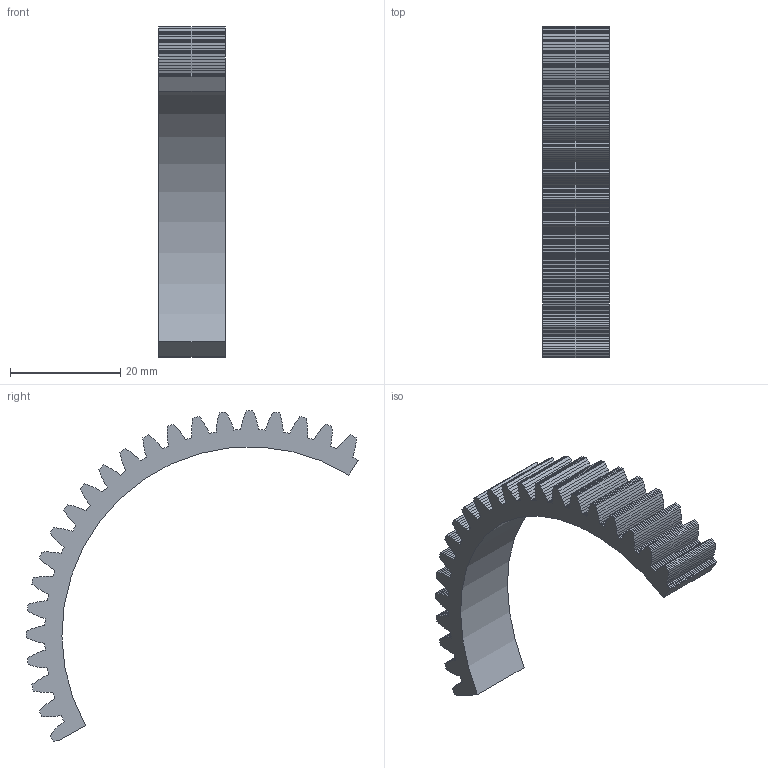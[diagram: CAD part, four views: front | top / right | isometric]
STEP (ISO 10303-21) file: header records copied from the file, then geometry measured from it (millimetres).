
FILE_DESCRIPTION(('Open CASCADE Model'),'2;1');
FILE_NAME('Open CASCADE Shape Model','2026-10-17T22:10:42',('Author'),( 'Open CASCADE'),'Open CASCADE STEP processor 7.9','Open CASCADE 7.9' ,'Unknown');
FILE_SCHEMA(('AUTOMOTIVE_DESIGN { 1 0 10303 214 1 1 1 1 }'));
Length unit declared in the file: millimetre
Products named in the file (1): Open CASCADE STEP translator 7.9 15
Bounding box: 12 x 60.13 x 59.84 mm (x, y, z)
Volume: 5627 mm3; surface area: 4607.5 mm2
Topology: 1 solids, 1 shells, 506 faces, 1512 edges, 1008 vertices
Faces by surface type: plane 505, cylinder 1
Entity records: 36311 total; most frequent: CARTESIAN_POINT 6073, DIRECTION 5535, LINE 4516, VECTOR 4516, ORIENTED_EDGE 3024, PCURVE 3024, DEFINITIONAL_REPRESENTATION 3024, EDGE_CURVE 1512
